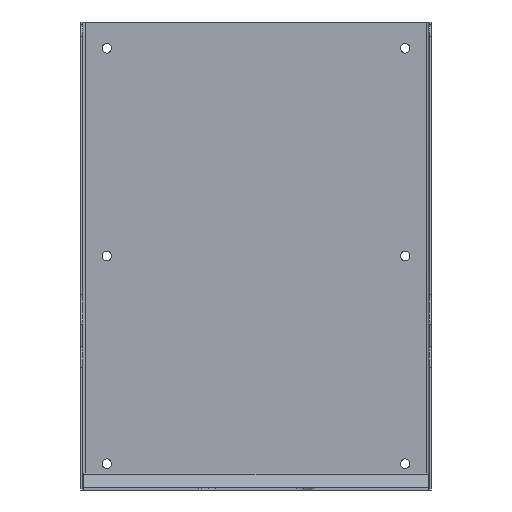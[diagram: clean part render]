
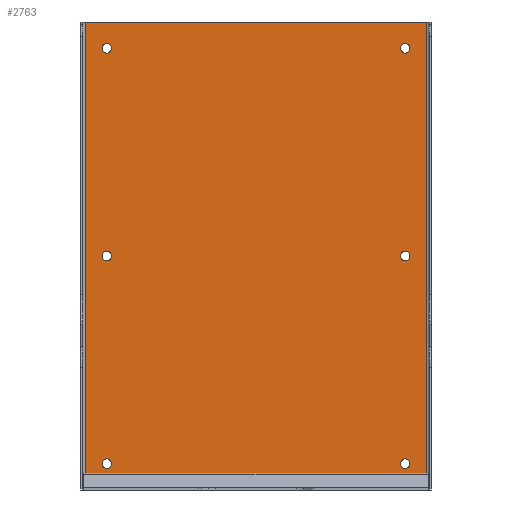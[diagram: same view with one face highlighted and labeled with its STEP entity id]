
A CAD part, front view. The second image highlights one B-rep face of the part: STEP entity #2763.
In plain terms, the highlighted planar face has unit normal (0, -1, 0).
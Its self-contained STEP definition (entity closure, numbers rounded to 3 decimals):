
#5 = LINE ( 'NONE', #516, #1657 ) ;
#49 = DIRECTION ( 'NONE',  ( 0., 0., -1. ) ) ;
#56 = CARTESIAN_POINT ( 'NONE',  ( 120., -20.6, 3.5 ) ) ;
#157 = EDGE_CURVE ( 'NONE', #1246, #2267, #570, .T. ) ;
#170 = CARTESIAN_POINT ( 'NONE',  ( -116.8, -20.6, 320. ) ) ;
#184 = DIRECTION ( 'NONE',  ( 0., 0., -1. ) ) ;
#188 = EDGE_CURVE ( 'NONE', #3239, #1844, #5, .T. ) ;
#210 = CARTESIAN_POINT ( 'NONE',  ( -116.5, -20.6, 3.2 ) ) ;
#228 = ORIENTED_EDGE ( 'NONE', *, *, #1654, .F. ) ;
#244 = ORIENTED_EDGE ( 'NONE', *, *, #1159, .F. ) ;
#246 = CARTESIAN_POINT ( 'NONE',  ( -116.5, -20.6, 3.5 ) ) ;
#291 = LINE ( 'NONE', #539, #543 ) ;
#303 = AXIS2_PLACEMENT_3D ( 'NONE', #1682, #1173, #962 ) ;
#306 = CARTESIAN_POINT ( 'NONE',  ( -102., -20.6, 156.75 ) ) ;
#328 = LINE ( 'NONE', #2826, #371 ) ;
#337 = CIRCLE ( 'NONE', #2322, 3.25 ) ;
#346 = EDGE_CURVE ( 'NONE', #2100, #3239, #547, .T. ) ;
#348 = EDGE_CURVE ( 'NONE', #877, #877, #2698, .T. ) ;
#355 = CARTESIAN_POINT ( 'NONE',  ( 102., -20.6, 298.75 ) ) ;
#371 = VECTOR ( 'NONE', #1108, 1000. ) ;
#379 = LINE ( 'NONE', #1871, #759 ) ;
#410 = EDGE_LOOP ( 'NONE', ( #731 ) ) ;
#415 = VERTEX_POINT ( 'NONE', #693 ) ;
#450 = VERTEX_POINT ( 'NONE', #1693 ) ;
#479 = VERTEX_POINT ( 'NONE', #1590 ) ;
#495 = CARTESIAN_POINT ( 'NONE',  ( -116.5, -20.6, 0. ) ) ;
#506 = DIRECTION ( 'NONE',  ( -1., 0., 0. ) ) ;
#516 = CARTESIAN_POINT ( 'NONE',  ( 120., -20.6, 320. ) ) ;
#539 = CARTESIAN_POINT ( 'NONE',  ( -116.8, -20.6, 0. ) ) ;
#543 = VECTOR ( 'NONE', #2741, 1000. ) ;
#547 = LINE ( 'NONE', #2269, #1288 ) ;
#549 = VERTEX_POINT ( 'NONE', #210 ) ;
#565 = EDGE_LOOP ( 'NONE', ( #2122, #2235, #228, #2174, #1620, #704, #1618, #1822 ) ) ;
#570 = LINE ( 'NONE', #56, #2647 ) ;
#587 = AXIS2_PLACEMENT_3D ( 'NONE', #2164, #3160, #184 ) ;
#624 = DIRECTION ( 'NONE',  ( 0., -1., 0. ) ) ;
#628 = EDGE_LOOP ( 'NONE', ( #1148 ) ) ;
#652 = EDGE_CURVE ( 'NONE', #1844, #2267, #291, .T. ) ;
#659 = DIRECTION ( 'NONE',  ( -1., 0., 0. ) ) ;
#689 = ORIENTED_EDGE ( 'NONE', *, *, #348, .F. ) ;
#693 = CARTESIAN_POINT ( 'NONE',  ( -102., -20.6, 298.75 ) ) ;
#704 = ORIENTED_EDGE ( 'NONE', *, *, #188, .T. ) ;
#731 = ORIENTED_EDGE ( 'NONE', *, *, #1307, .F. ) ;
#759 = VECTOR ( 'NONE', #2375, 1000. ) ;
#849 = VERTEX_POINT ( 'NONE', #355 ) ;
#865 = CARTESIAN_POINT ( 'NONE',  ( 102., -20.6, 14.75 ) ) ;
#877 = VERTEX_POINT ( 'NONE', #1876 ) ;
#931 = VERTEX_POINT ( 'NONE', #1893 ) ;
#930 = CIRCLE ( 'NONE', #303, 3.25 ) ;
#962 = DIRECTION ( 'NONE',  ( 0., 0., -1. ) ) ;
#1025 = EDGE_CURVE ( 'NONE', #2100, #479, #2624, .T. ) ;
#1031 = DIRECTION ( 'NONE',  ( 0., -1., 0. ) ) ;
#1043 = PLANE ( 'NONE',  #2420 ) ;
#1050 = DIRECTION ( 'NONE',  ( 0., -1., 0. ) ) ;
#1054 = VERTEX_POINT ( 'NONE', #865 ) ;
#1059 = EDGE_LOOP ( 'NONE', ( #244 ) ) ;
#1108 = DIRECTION ( 'NONE',  ( 0., 0., -1. ) ) ;
#1148 = ORIENTED_EDGE ( 'NONE', *, *, #1454, .F. ) ;
#1159 = EDGE_CURVE ( 'NONE', #849, #849, #3183, .T. ) ;
#1165 = EDGE_CURVE ( 'NONE', #549, #1246, #2312, .T. ) ;
#1173 = DIRECTION ( 'NONE',  ( 0., -1., 0. ) ) ;
#1221 = EDGE_LOOP ( 'NONE', ( #3191 ) ) ;
#1246 = VERTEX_POINT ( 'NONE', #246 ) ;
#1288 = VECTOR ( 'NONE', #2330, 1000. ) ;
#1289 = FACE_BOUND ( 'NONE', #2359, .T. ) ;
#1307 = EDGE_CURVE ( 'NONE', #1862, #1862, #2085, .T. ) ;
#1311 = CARTESIAN_POINT ( 'NONE',  ( -102., -20.6, 302. ) ) ;
#1355 = DIRECTION ( 'NONE',  ( 0., 0., -1. ) ) ;
#1454 = EDGE_CURVE ( 'NONE', #1054, #1054, #930, .T. ) ;
#1471 = FACE_BOUND ( 'NONE', #1221, .T. ) ;
#1538 = FACE_BOUND ( 'NONE', #1755, .T. ) ;
#1543 = DIRECTION ( 'NONE',  ( 0., -1., 0. ) ) ;
#1554 = DIRECTION ( 'NONE',  ( 0., -1., 0. ) ) ;
#1590 = CARTESIAN_POINT ( 'NONE',  ( 116.5, -20.6, 3.5 ) ) ;
#1618 = ORIENTED_EDGE ( 'NONE', *, *, #652, .T. ) ;
#1619 = CARTESIAN_POINT ( 'NONE',  ( -102., -20.6, 160. ) ) ;
#1620 = ORIENTED_EDGE ( 'NONE', *, *, #346, .T. ) ;
#1654 = EDGE_CURVE ( 'NONE', #479, #931, #328, .T. ) ;
#1657 = VECTOR ( 'NONE', #2426, 1000. ) ;
#1682 = CARTESIAN_POINT ( 'NONE',  ( 102., -20.6, 18. ) ) ;
#1686 = FACE_BOUND ( 'NONE', #1059, .T. ) ;
#1693 = CARTESIAN_POINT ( 'NONE',  ( 102., -20.6, 156.75 ) ) ;
#1741 = FACE_OUTER_BOUND ( 'NONE', #565, .T. ) ;
#1755 = EDGE_LOOP ( 'NONE', ( #2183 ) ) ;
#1763 = AXIS2_PLACEMENT_3D ( 'NONE', #2570, #1543, #49 ) ;
#1774 = CARTESIAN_POINT ( 'NONE',  ( 102., -20.6, 302. ) ) ;
#1778 = VECTOR ( 'NONE', #1803, 1000. ) ;
#1803 = DIRECTION ( 'NONE',  ( 0., 0., 1. ) ) ;
#1822 = ORIENTED_EDGE ( 'NONE', *, *, #157, .F. ) ;
#1844 = VERTEX_POINT ( 'NONE', #170 ) ;
#1862 = VERTEX_POINT ( 'NONE', #306 ) ;
#1871 = CARTESIAN_POINT ( 'NONE',  ( 116.5, -20.6, 3.2 ) ) ;
#1876 = CARTESIAN_POINT ( 'NONE',  ( -102., -20.6, 14.75 ) ) ;
#1893 = CARTESIAN_POINT ( 'NONE',  ( 116.5, -20.6, 3.2 ) ) ;
#2002 = CIRCLE ( 'NONE', #587, 3.25 ) ;
#2022 = DIRECTION ( 'NONE',  ( 0., 0., -1. ) ) ;
#2048 = FACE_BOUND ( 'NONE', #410, .T. ) ;
#2056 = DIRECTION ( 'NONE',  ( 0., 0., -1. ) ) ;
#2085 = CIRCLE ( 'NONE', #3072, 3.25 ) ;
#2100 = VERTEX_POINT ( 'NONE', #3066 ) ;
#2122 = ORIENTED_EDGE ( 'NONE', *, *, #1165, .F. ) ;
#2164 = CARTESIAN_POINT ( 'NONE',  ( 102., -20.6, 160. ) ) ;
#2174 = ORIENTED_EDGE ( 'NONE', *, *, #1025, .F. ) ;
#2183 = ORIENTED_EDGE ( 'NONE', *, *, #2289, .F. ) ;
#2235 = ORIENTED_EDGE ( 'NONE', *, *, #2747, .T. ) ;
#2267 = VERTEX_POINT ( 'NONE', #2377 ) ;
#2269 = CARTESIAN_POINT ( 'NONE',  ( 116.8, -20.6, 320. ) ) ;
#2289 = EDGE_CURVE ( 'NONE', #450, #450, #2002, .T. ) ;
#2312 = LINE ( 'NONE', #495, #1778 ) ;
#2322 = AXIS2_PLACEMENT_3D ( 'NONE', #1311, #1050, #2056 ) ;
#2330 = DIRECTION ( 'NONE',  ( 0., 0., 1. ) ) ;
#2359 = EDGE_LOOP ( 'NONE', ( #689 ) ) ;
#2375 = DIRECTION ( 'NONE',  ( 1., 0., 0. ) ) ;
#2377 = CARTESIAN_POINT ( 'NONE',  ( -116.8, -20.6, 3.5 ) ) ;
#2379 = VECTOR ( 'NONE', #659, 1000. ) ;
#2420 = AXIS2_PLACEMENT_3D ( 'NONE', #2778, #1554, #2471 ) ;
#2426 = DIRECTION ( 'NONE',  ( -1., 0., 0. ) ) ;
#2471 = DIRECTION ( 'NONE',  ( 0., 0., -1. ) ) ;
#2505 = AXIS2_PLACEMENT_3D ( 'NONE', #1774, #1031, #2022 ) ;
#2562 = EDGE_CURVE ( 'NONE', #415, #415, #337, .T. ) ;
#2570 = CARTESIAN_POINT ( 'NONE',  ( -102., -20.6, 18. ) ) ;
#2578 = CARTESIAN_POINT ( 'NONE',  ( 116.8, -20.6, 320. ) ) ;
#2624 = LINE ( 'NONE', #3146, #2379 ) ;
#2647 = VECTOR ( 'NONE', #506, 1000. ) ;
#2698 = CIRCLE ( 'NONE', #1763, 3.25 ) ;
#2741 = DIRECTION ( 'NONE',  ( 0., 0., -1. ) ) ;
#2747 = EDGE_CURVE ( 'NONE', #549, #931, #379, .T. ) ;
#2763 = ADVANCED_FACE ( 'NONE', ( #1538, #1289, #3039, #1686, #2048, #1471, #1741 ), #1043, .T. ) ;
#2778 = CARTESIAN_POINT ( 'NONE',  ( 120., -20.6, 0. ) ) ;
#2826 = CARTESIAN_POINT ( 'NONE',  ( 116.5, -20.6, 0. ) ) ;
#3039 = FACE_BOUND ( 'NONE', #628, .T. ) ;
#3066 = CARTESIAN_POINT ( 'NONE',  ( 116.8, -20.6, 3.5 ) ) ;
#3072 = AXIS2_PLACEMENT_3D ( 'NONE', #1619, #624, #1355 ) ;
#3146 = CARTESIAN_POINT ( 'NONE',  ( 120., -20.6, 3.5 ) ) ;
#3160 = DIRECTION ( 'NONE',  ( 0., -1., 0. ) ) ;
#3183 = CIRCLE ( 'NONE', #2505, 3.25 ) ;
#3191 = ORIENTED_EDGE ( 'NONE', *, *, #2562, .F. ) ;
#3239 = VERTEX_POINT ( 'NONE', #2578 ) ;
